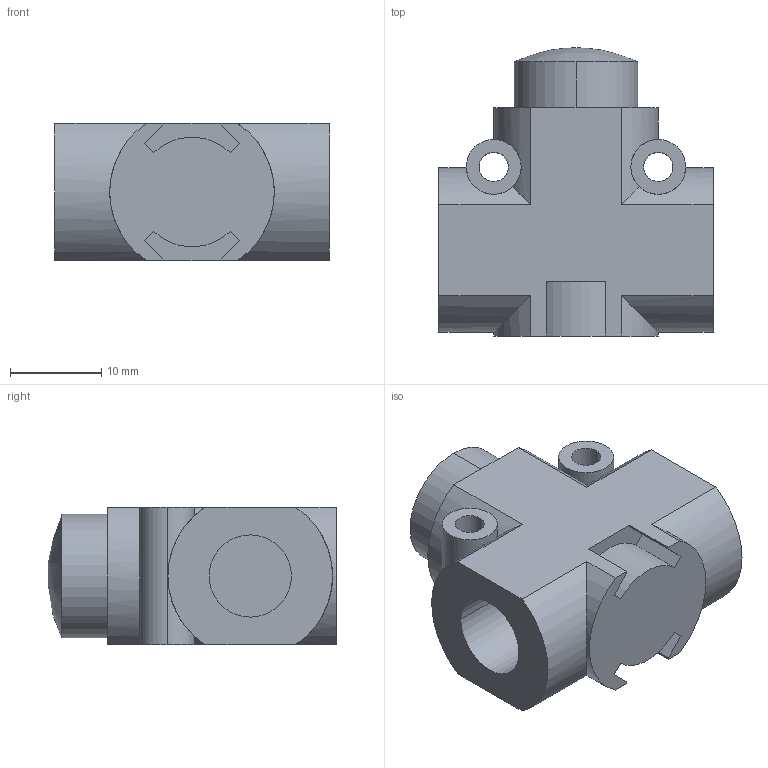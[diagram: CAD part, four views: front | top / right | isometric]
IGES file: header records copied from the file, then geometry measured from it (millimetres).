
Global section: file name: No Iges File Name specified; native system: Autodesk Inventor 2009; preprocessor: AutoDesk Inventor Iges Exporter R2009; author: rivolro1; date: 20090430.143914; units: millimetre
Bounding box: 30 x 31.54 x 15 mm (x, y, z)
Volume: 8562 mm3; surface area: 4252.1 mm2
Topology: 1 solids, 2 shells, 55 faces, 144 edges, 96 vertices
Faces by surface type: plane 19, cylinder 15, bspline 14, revolution 6, sphere 1
